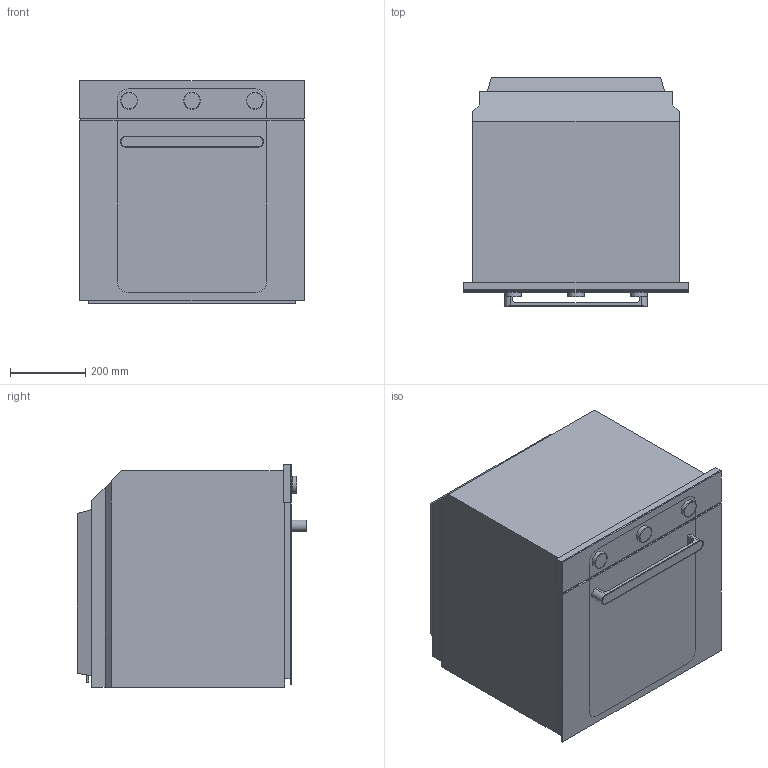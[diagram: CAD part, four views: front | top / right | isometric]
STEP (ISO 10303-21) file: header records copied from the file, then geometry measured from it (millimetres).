
FILE_DESCRIPTION(/* description */ (''),/* implementation_level */ '2;1');
FILE_NAME(/* name */ 'Forno_Musa_60_cm_3_manopole.stp',/* time_stamp */ '2026-06-16T11:24:34+02:00',/* author */ (''),/* organization */ (''),/* preprocessor_version */ 'ST-DEVELOPER v20',/* originating_system */ 'SIEMENS PLM Software NX2412.4001',/* authorisation */ '');
FILE_SCHEMA (('AUTOMOTIVE_DESIGN { 1 0 10303 214 3 1 1 1 }'));
Length unit declared in the file: millimetre
Products named in the file (1): Musa60
Bounding box: 597 x 610.65 x 591.84 mm (x, y, z)
Volume: 174190896.9 mm3; surface area: 2704900.8 mm2
Topology: 13 solids, 13 shells, 125 faces, 268 edges, 178 vertices
Faces by surface type: plane 96, cylinder 29
Full cylindrical faces by diameter (mm): 5 x1, 25 x3, 43 x6, 45 x3
Entity records: 3386 total; most frequent: CARTESIAN_POINT 571, DIRECTION 562, ORIENTED_EDGE 508, EDGE_CURVE 254, LINE 194, VECTOR 194, AXIS2_PLACEMENT_3D 184, VERTEX_POINT 177
